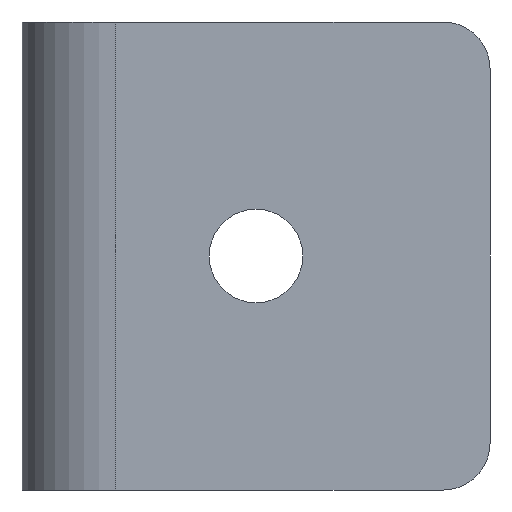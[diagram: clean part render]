
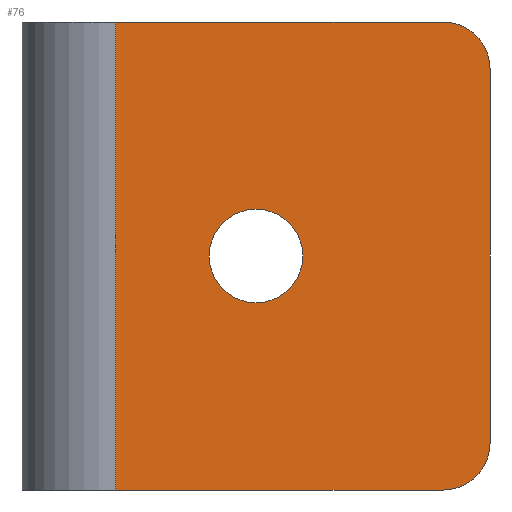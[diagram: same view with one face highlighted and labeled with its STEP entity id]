
A CAD part, front view. The second image highlights one B-rep face of the part: STEP entity #76.
In plain terms, the highlighted planar face has unit normal (0, -1, 0).
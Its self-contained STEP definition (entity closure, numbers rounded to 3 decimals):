
#76 = ADVANCED_FACE( '', ( #94, #95 ), #96, .F. );
#94 = FACE_BOUND( '', #132, .T. );
#95 = FACE_OUTER_BOUND( '', #133, .T. );
#96 = PLANE( '', #134 );
#132 = EDGE_LOOP( '', ( #175 ) );
#133 = EDGE_LOOP( '', ( #176, #177, #178, #179, #180, #181 ) );
#134 = AXIS2_PLACEMENT_3D( '', #182, #183, #184 );
#175 = ORIENTED_EDGE( '', *, *, #300, .F. );
#176 = ORIENTED_EDGE( '', *, *, #301, .T. );
#177 = ORIENTED_EDGE( '', *, *, #302, .F. );
#178 = ORIENTED_EDGE( '', *, *, #303, .F. );
#179 = ORIENTED_EDGE( '', *, *, #304, .F. );
#180 = ORIENTED_EDGE( '', *, *, #305, .F. );
#181 = ORIENTED_EDGE( '', *, *, #297, .T. );
#182 = CARTESIAN_POINT( '', ( 6., 0., 15. ) );
#183 = DIRECTION( '', ( 0., 1., 0. ) );
#184 = DIRECTION( '', ( 0., 0., 1. ) );
#297 = EDGE_CURVE( '', #339, #337, #340, .T. );
#300 = EDGE_CURVE( '', #344, #344, #345, .T. );
#301 = EDGE_CURVE( '', #337, #346, #347, .T. );
#302 = EDGE_CURVE( '', #348, #346, #349, .T. );
#303 = EDGE_CURVE( '', #350, #348, #351, .T. );
#304 = EDGE_CURVE( '', #352, #350, #353, .T. );
#305 = EDGE_CURVE( '', #339, #352, #354, .T. );
#337 = VERTEX_POINT( '', #405 );
#339 = VERTEX_POINT( '', #407 );
#340 = LINE( '', #408, #409 );
#344 = VERTEX_POINT( '', #414 );
#345 = CIRCLE( '', #415, 3. );
#346 = VERTEX_POINT( '', #416 );
#347 = LINE( '', #417, #418 );
#348 = VERTEX_POINT( '', #419 );
#349 = CIRCLE( '', #420, 3. );
#350 = VERTEX_POINT( '', #421 );
#351 = LINE( '', #422, #423 );
#352 = VERTEX_POINT( '', #424 );
#353 = CIRCLE( '', #425, 3. );
#354 = LINE( '', #426, #427 );
#405 = CARTESIAN_POINT( '', ( 6., 0., -15. ) );
#407 = CARTESIAN_POINT( '', ( 6., 0., 15. ) );
#408 = CARTESIAN_POINT( '', ( 6., 0., 15. ) );
#409 = VECTOR( '', #499, 1000. );
#414 = CARTESIAN_POINT( '', ( 15., 0., -3. ) );
#415 = AXIS2_PLACEMENT_3D( '', #504, #505, #506 );
#416 = CARTESIAN_POINT( '', ( 27., 0., -15. ) );
#417 = CARTESIAN_POINT( '', ( 6., 0., -15. ) );
#418 = VECTOR( '', #507, 1000. );
#419 = CARTESIAN_POINT( '', ( 30., 0., -12. ) );
#420 = AXIS2_PLACEMENT_3D( '', #508, #509, #510 );
#421 = CARTESIAN_POINT( '', ( 30., 0., 12. ) );
#422 = CARTESIAN_POINT( '', ( 30., 0., 15. ) );
#423 = VECTOR( '', #511, 1000. );
#424 = CARTESIAN_POINT( '', ( 27., 0., 15. ) );
#425 = AXIS2_PLACEMENT_3D( '', #512, #513, #514 );
#426 = CARTESIAN_POINT( '', ( 6., 0., 15. ) );
#427 = VECTOR( '', #515, 1000. );
#499 = DIRECTION( '', ( 0., 0., -1. ) );
#504 = CARTESIAN_POINT( '', ( 15., 0., 0. ) );
#505 = DIRECTION( '', ( 0., -1., 0. ) );
#506 = DIRECTION( '', ( 0., 0., -1. ) );
#507 = DIRECTION( '', ( 1., 0., 0. ) );
#508 = CARTESIAN_POINT( '', ( 27., 0., -12. ) );
#509 = DIRECTION( '', ( 0., 1., 0. ) );
#510 = DIRECTION( '', ( 1., 0., 0. ) );
#511 = DIRECTION( '', ( 0., 0., -1. ) );
#512 = CARTESIAN_POINT( '', ( 27., 0., 12. ) );
#513 = DIRECTION( '', ( 0., 1., 0. ) );
#514 = DIRECTION( '', ( 1., 0., 0. ) );
#515 = DIRECTION( '', ( 1., 0., 0. ) );
